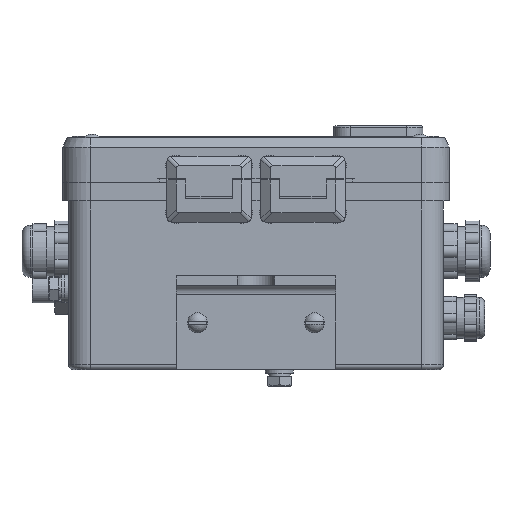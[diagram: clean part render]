
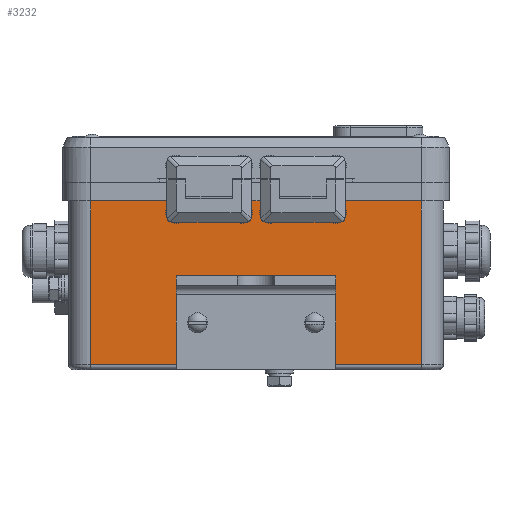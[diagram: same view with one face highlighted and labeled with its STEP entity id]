
A CAD part, front view. The second image highlights one B-rep face of the part: STEP entity #3232.
In plain terms, the highlighted planar face has unit normal (0, -1, 0).
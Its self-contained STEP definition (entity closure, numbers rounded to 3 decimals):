
#3232=ADVANCED_FACE('',(#13359,#13361,#13363,#13365,#13367,#13369,#13371),#13373,
.T.);
#13359=FACE_BOUND('',#13360,.T.);
#13360=EDGE_LOOP('',(#41638,#41639,#41640,#41641));
#13361=FACE_BOUND('',#13362,.T.);
#13362=EDGE_LOOP('',(#41642));
#13363=FACE_BOUND('',#13364,.T.);
#13364=EDGE_LOOP('',(#41643));
#13365=FACE_BOUND('',#13366,.T.);
#13366=EDGE_LOOP('',(#41644));
#13367=FACE_BOUND('',#13368,.T.);
#13368=EDGE_LOOP('',(#41645));
#13369=FACE_BOUND('',#13370,.T.);
#13370=EDGE_LOOP('',(#41646));
#13371=FACE_BOUND('',#13372,.T.);
#13372=EDGE_LOOP('',(#41647));
#13373=PLANE('',#13374);
#13374=AXIS2_PLACEMENT_3D('',#13375,#13376,#13377);
#13375=CARTESIAN_POINT('',(70.5,-80.,0.));
#13376=DIRECTION('',(0.,-1.,0.));
#13377=DIRECTION('',(0.,0.,1.));
#41638=ORIENTED_EDGE('',*,*,#63075,.T.);
#41639=ORIENTED_EDGE('',*,*,#63076,.F.);
#41640=ORIENTED_EDGE('',*,*,#63077,.F.);
#41641=ORIENTED_EDGE('',*,*,#63078,.F.);
#41642=ORIENTED_EDGE('',*,*,#63079,.T.);
#41643=ORIENTED_EDGE('',*,*,#63080,.T.);
#41644=ORIENTED_EDGE('',*,*,#63081,.T.);
#41645=ORIENTED_EDGE('',*,*,#63082,.T.);
#41646=ORIENTED_EDGE('',*,*,#62995,.T.);
#41647=ORIENTED_EDGE('',*,*,#62997,.T.);
#62995=EDGE_CURVE('',#77592,#77592,#77593,.T.);
#62997=EDGE_CURVE('',#77596,#77596,#77597,.T.);
#63075=EDGE_CURVE('',#77728,#77729,#77730,.T.);
#63076=EDGE_CURVE('',#77731,#77729,#77732,.T.);
#63077=EDGE_CURVE('',#77733,#77731,#77734,.T.);
#63078=EDGE_CURVE('',#77728,#77733,#77735,.T.);
#63079=EDGE_CURVE('',#77736,#77736,#77737,.T.);
#63080=EDGE_CURVE('',#77738,#77738,#77739,.T.);
#63081=EDGE_CURVE('',#77740,#77740,#77741,.T.);
#63082=EDGE_CURVE('',#77742,#77742,#77743,.T.);
#77592=VERTEX_POINT('',#94782);
#77593=CIRCLE('',#94783,2.4);
#77596=VERTEX_POINT('',#94792);
#77597=CIRCLE('',#94793,2.4);
#77728=VERTEX_POINT('',#95110);
#77729=VERTEX_POINT('',#95111);
#77730=LINE('',#95112,#95113);
#77731=VERTEX_POINT('',#95115);
#77732=LINE('',#95116,#95117);
#77733=VERTEX_POINT('',#95119);
#77734=LINE('',#95120,#95121);
#77735=LINE('',#95123,#95124);
#77736=VERTEX_POINT('',#95126);
#77737=CIRCLE('',#95127,4.5);
#77738=VERTEX_POINT('',#95131);
#77739=CIRCLE('',#95132,4.5);
#77740=VERTEX_POINT('',#95136);
#77741=CIRCLE('',#95137,4.5);
#77742=VERTEX_POINT('',#95141);
#77743=CIRCLE('',#95142,4.5);
#94782=CARTESIAN_POINT('',(-25.,-80.,17.6));
#94783=AXIS2_PLACEMENT_3D('',#94784,#94785,#94786);
#94784=CARTESIAN_POINT('',(-25.,-80.,20.));
#94785=DIRECTION('',(0.,1.,0.));
#94786=DIRECTION('',(0.,0.,-1.));
#94792=CARTESIAN_POINT('',(25.,-80.,17.6));
#94793=AXIS2_PLACEMENT_3D('',#94794,#94795,#94796);
#94794=CARTESIAN_POINT('',(25.,-80.,20.));
#94795=DIRECTION('',(0.,1.,0.));
#94796=DIRECTION('',(0.,0.,-1.));
#95110=CARTESIAN_POINT('',(70.5,-80.,72.));
#95111=CARTESIAN_POINT('',(-70.5,-80.,72.));
#95112=CARTESIAN_POINT('',(70.5,-80.,72.));
#95113=VECTOR('',#95114,1.);
#95114=DIRECTION('',(-1.,0.,0.));
#95115=CARTESIAN_POINT('',(-70.5,-80.,2.));
#95116=CARTESIAN_POINT('',(-70.5,-80.,2.));
#95117=VECTOR('',#95118,1.);
#95118=DIRECTION('',(0.,0.,1.));
#95119=CARTESIAN_POINT('',(70.5,-80.,2.));
#95120=CARTESIAN_POINT('',(70.5,-80.,2.));
#95121=VECTOR('',#95122,1.);
#95122=DIRECTION('',(-1.,0.,0.));
#95123=CARTESIAN_POINT('',(70.5,-80.,72.));
#95124=VECTOR('',#95125,1.);
#95125=DIRECTION('',(0.,0.,-1.));
#95126=CARTESIAN_POINT('',(6.,-80.,62.5));
#95127=AXIS2_PLACEMENT_3D('',#95128,#95129,#95130);
#95128=CARTESIAN_POINT('',(6.,-80.,67.));
#95129=DIRECTION('',(0.,1.,0.));
#95130=DIRECTION('',(0.,0.,1.));
#95131=CARTESIAN_POINT('',(-34.,-80.,62.5));
#95132=AXIS2_PLACEMENT_3D('',#95133,#95134,#95135);
#95133=CARTESIAN_POINT('',(-34.,-80.,67.));
#95134=DIRECTION('',(0.,1.,0.));
#95135=DIRECTION('',(0.,0.,1.));
#95136=CARTESIAN_POINT('',(-6.,-80.,62.5));
#95137=AXIS2_PLACEMENT_3D('',#95138,#95139,#95140);
#95138=CARTESIAN_POINT('',(-6.,-80.,67.));
#95139=DIRECTION('',(0.,1.,0.));
#95140=DIRECTION('',(0.,0.,1.));
#95141=CARTESIAN_POINT('',(34.,-80.,62.5));
#95142=AXIS2_PLACEMENT_3D('',#95143,#95144,#95145);
#95143=CARTESIAN_POINT('',(34.,-80.,67.));
#95144=DIRECTION('',(0.,1.,0.));
#95145=DIRECTION('',(0.,0.,1.));
